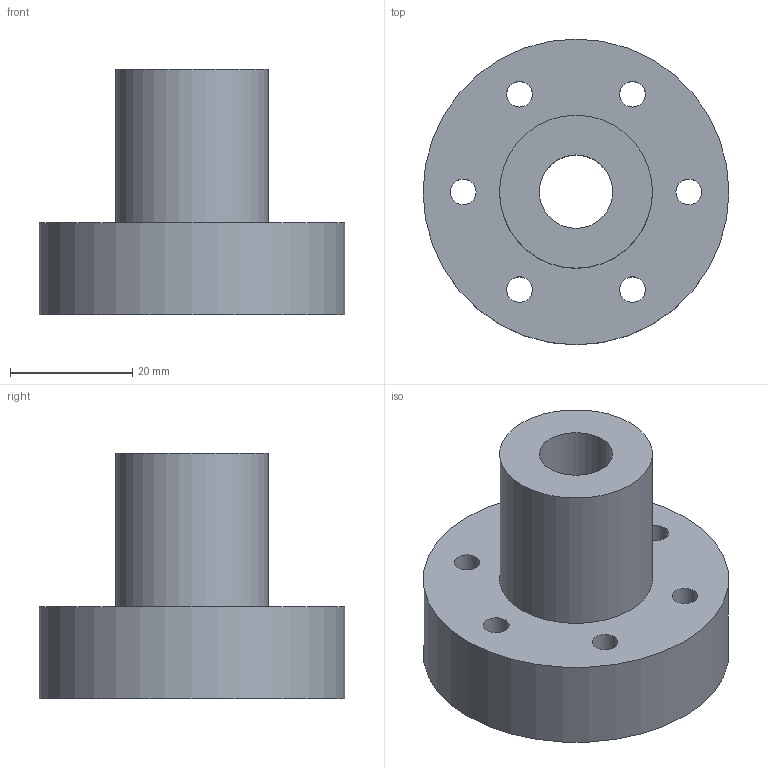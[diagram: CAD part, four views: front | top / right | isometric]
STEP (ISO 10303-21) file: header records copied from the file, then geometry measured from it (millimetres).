
FILE_DESCRIPTION(('HOOPS Exchange Step'),'2;1');
FILE_NAME('C:\Users\lindbee1\AppData\Local\Packages\Shapr3D.Shapr3D_j403pzjkqtqbj\TempState\export\temp_export','2023-09-07T14:28:02+03:00',('lindbee1'),('Shapr3D Limited'),'HOOPS Exchange 2023.2','Shapr3D','Authorized');
FILE_SCHEMA( ('AUTOMOTIVE_DESIGN { 1 0 10303 214 1 1 1 1 }') );
Length unit declared in the file: millimetre
Products named in the file (2): Imported; root
Assembly tree (1 placements, depth 2):
  root
    Imported
Bounding box: 50 x 50 x 40.07 mm (x, y, z)
Volume: 33423.8 mm3; surface area: 13273.5 mm2
Topology: 2 solids, 2 shells, 21 faces, 68 edges, 52 vertices
Faces by surface type: plane 11, cylinder 10
Full cylindrical faces by diameter (mm): 4.2 x6, 12 x1, 25 x2, 50 x1
Entity records: 876 total; most frequent: DIRECTION 154, CARTESIAN_POINT 143, ORIENTED_EDGE 136, EDGE_CURVE 68, AXIS2_PLACEMENT_3D 63, VERTEX_POINT 52, CIRCLE 40, EDGE_LOOP 38
